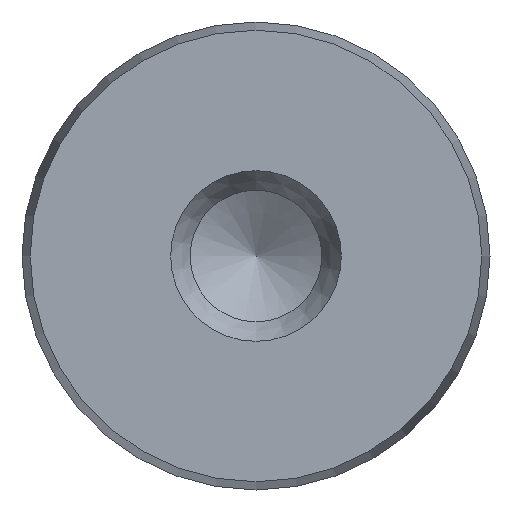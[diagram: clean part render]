
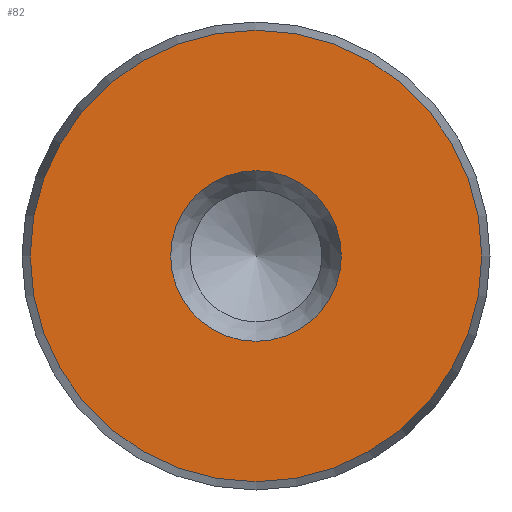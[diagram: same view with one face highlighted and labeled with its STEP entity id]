
A CAD part, front view. The second image highlights one B-rep face of the part: STEP entity #82.
In plain terms, the highlighted planar face has unit normal (0, -1, 0).
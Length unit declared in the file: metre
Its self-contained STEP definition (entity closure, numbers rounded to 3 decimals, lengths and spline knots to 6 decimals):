
#82 = ADVANCED_FACE( '', ( #108, #109 ), #110, .T. );
#108 = FACE_BOUND( '', #150, .T. );
#109 = FACE_OUTER_BOUND( '', #151, .T. );
#110 = PLANE( '', #152 );
#150 = EDGE_LOOP( '', ( #202 ) );
#151 = EDGE_LOOP( '', ( #203 ) );
#152 = AXIS2_PLACEMENT_3D( '', #204, #205, #206 );
#202 = ORIENTED_EDGE( '', *, *, #252, .T. );
#203 = ORIENTED_EDGE( '', *, *, #254, .T. );
#204 = CARTESIAN_POINT( '', ( 0., -0.1, 0. ) );
#205 = DIRECTION( '', ( 0., -1., 0. ) );
#206 = DIRECTION( '', ( 0., 0., -1. ) );
#252 = EDGE_CURVE( '', #270, #270, #271, .F. );
#254 = EDGE_CURVE( '', #274, #274, #275, .T. );
#270 = VERTEX_POINT( '', #296 );
#271 = CIRCLE( '', #297, 0.004375 );
#274 = VERTEX_POINT( '', #300 );
#275 = CIRCLE( '', #301, 0.011578 );
#296 = CARTESIAN_POINT( '', ( 0., -0.1, -0.004375 ) );
#297 = AXIS2_PLACEMENT_3D( '', #326, #327, #328 );
#300 = CARTESIAN_POINT( '', ( 0., -0.1, -0.011578 ) );
#301 = AXIS2_PLACEMENT_3D( '', #332, #333, #334 );
#326 = CARTESIAN_POINT( '', ( 0., -0.1, 0. ) );
#327 = DIRECTION( '', ( 0., -1., 0. ) );
#328 = DIRECTION( '', ( 0., 0., -1. ) );
#332 = CARTESIAN_POINT( '', ( 0., -0.1, 0. ) );
#333 = DIRECTION( '', ( 0., -1., 0. ) );
#334 = DIRECTION( '', ( 0., 0., -1. ) );
